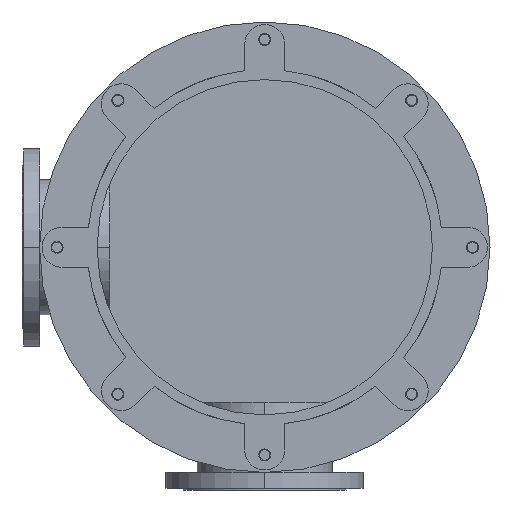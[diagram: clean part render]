
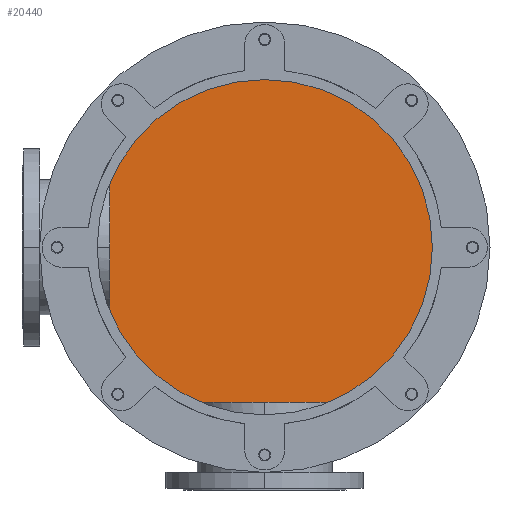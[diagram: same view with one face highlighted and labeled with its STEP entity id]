
A CAD part, front view. The second image highlights one B-rep face of the part: STEP entity #20440.
In plain terms, the highlighted planar face has unit normal (0, -1, 0).
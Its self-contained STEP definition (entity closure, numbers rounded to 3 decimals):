
#3744=CARTESIAN_POINT('',(0.,951.,0.));
#3745=DIRECTION('',(0.,-1.,0.));
#3746=DIRECTION('',(0.,0.,-1.));
#3747=AXIS2_PLACEMENT_3D('',#3744,#3745,#3746);
#3931=CARTESIAN_POINT('',(0.,951.,0.));
#3932=DIRECTION('',(0.,-1.,0.));
#3933=DIRECTION('',(0.,0.,1.));
#3934=AXIS2_PLACEMENT_3D('',#3931,#3932,#3933);
#9236=CARTESIAN_POINT('',(0.,951.,350.));
#9237=CARTESIAN_POINT('',(0.,951.,-350.));
#9238=VERTEX_POINT('',#9236);
#9239=VERTEX_POINT('',#9237);
#20431=CARTESIAN_POINT('',(0.,951.,0.));
#20432=DIRECTION('',(0.,1.,0.));
#20433=DIRECTION('',(0.,0.,-1.));
#20434=AXIS2_PLACEMENT_3D('',#20431,#20432,#20433);
#20435=PLANE('',#20434);
#20436=ORIENTED_EDGE('',*,*,#15834,.F.);
#20437=ORIENTED_EDGE('',*,*,#15691,.F.);
#20438=EDGE_LOOP('',(#20436,#20437));
#20439=FACE_OUTER_BOUND('',#20438,.F.);
#20440=ADVANCED_FACE('',(#20439),#20435,.F.);
#3748=CIRCLE('',#3747,350.);
#3935=CIRCLE('',#3934,350.);
#15691=EDGE_CURVE('',#9239,#9238,#3748,.T.);
#15834=EDGE_CURVE('',#9238,#9239,#3935,.T.);
